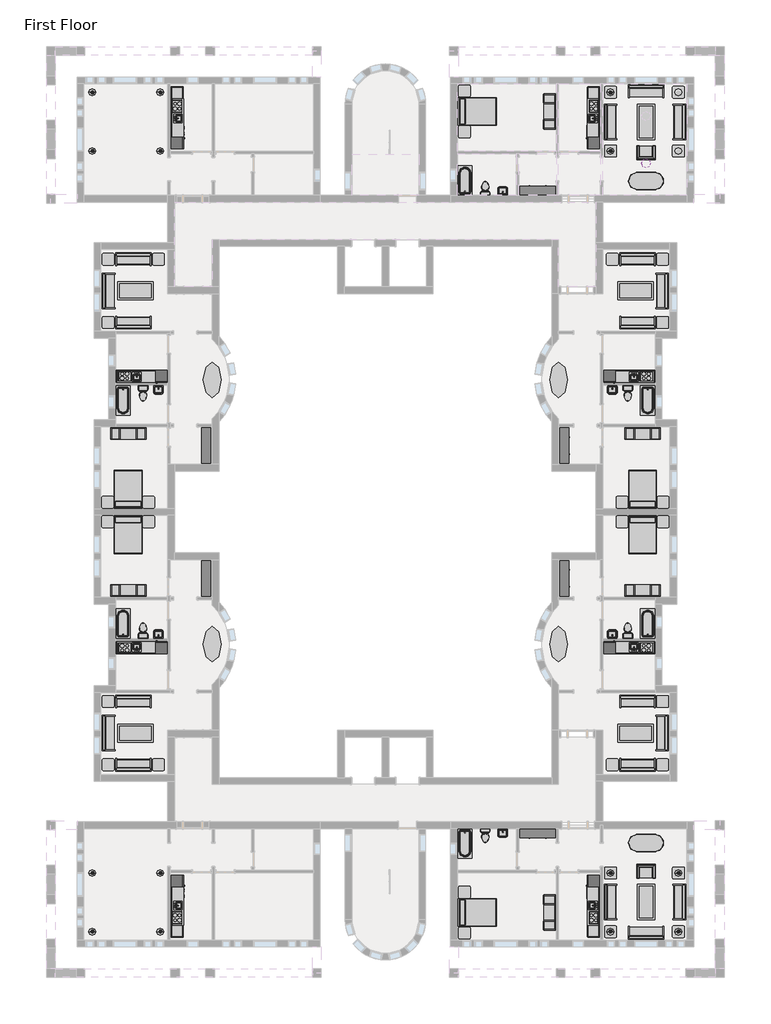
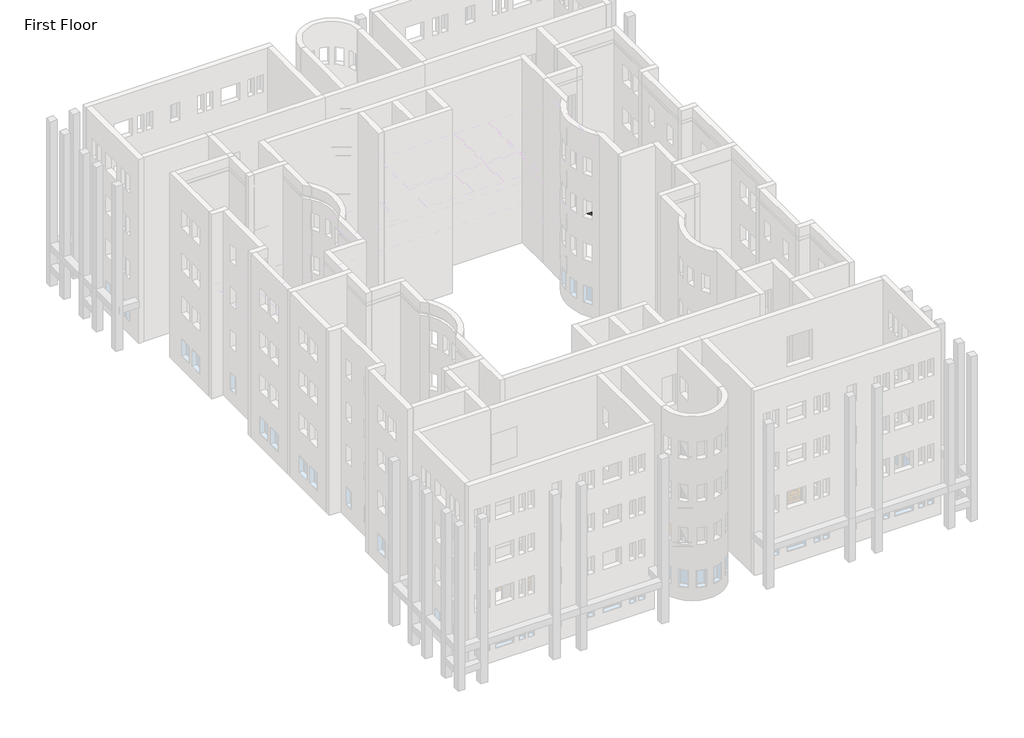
# One storey, part 23 of 24: 82 furniture elements, 18 flow terminals, 15 light fixtures, 8 proxies.
"""IFC4 building model written with IfcOpenShell, lengths in millimetres."""

from ifc_helpers import new_model, si_unit, origin, place, context, project, spatial, transform, mapped, element, save
from components import kitchenette_medium_5_9f73a4de, kitchenette_medium_5_952fb32b, proxy_64a468c4, proxy_b7eaed23, flow_terminal_0aeb31e3, flow_terminal_b53e1081, toilet_domestic_3d_toilet_domestic_3d_f7549cf7, toilet_domestic_3d_toilet_domestic_3d_183bbd19, toilet_domestic_3d_toilet_domestic_3d_a08e12bc, toilet_domestic_3d_toilet_domestic_3d_5530cc89, tub_rectangular_3d_tub_rectangular_3d_5e45a89b, tub_rectangular_3d_tub_rectangular_3d_98eb9c7c, furniture_096e7f55, furniture_097b173b, chair_corbu_chair_corbu_2764bdef, chair_corbu_chair_corbu_95fad79a, furniture_7c473f12, furniture_f6e81328, furniture_ddc78764, furniture_328d9d47, furniture_4ef38d96, furniture_dde8a40a, furniture_cd93a443, furniture_c9413244, furniture_2c34a4f9, furniture_cc351095, furniture_43880056, furniture_a7425590, furniture_3a588284, furniture_1befe2a2, pendant_disk_c68bffb6, table_lamp_1_100_watt_incandescent_6e8cd8b1, table_lamp_1_100_watt_incandescent_b33ea945

model = new_model("IFC4")

# Units and contexts
model_context = context("Model", 3, world=origin())
ifc_project = project(units=[si_unit("LENGTHUNIT", "METRE", prefix="MILLI")], contexts=[model_context])

# Site, building, storey
site = spatial("IfcSite", under=ifc_project)
building = spatial("IfcBuilding", under=site)
storey = spatial("IfcBuildingStorey", under=building, Name="First Floor", Elevation=0.0)

# Proxies
placement = place(None, origin())
kitchenette_medium_5_shape = kitchenette_medium_5_9f73a4de(model_context)
element("IfcBuildingElementProxy", 1, Name="Kitchenette - Medium : 5'", ObjectType="Kitchenette - Medium : 5'", at=placement, inside=storey, context=model_context, shape_type="MappedRepresentation", body=[
    mapped(kitchenette_medium_5_shape, transform((-28112.6966612, -4494.4827414, 0.0), x_axis=(1.0, 0.0, 0.0), y_axis=(0.0, 1.0, 0.0), z_axis=(0.0, 0.0, 1.0))),
])
element("IfcBuildingElementProxy", 2, Name="Kitchenette - Medium : 5'", ObjectType="Kitchenette - Medium : 5'", at=placement, inside=storey, context=model_context, shape_type="MappedRepresentation", body=[
    mapped(kitchenette_medium_5_shape, transform((-1757.6462514, -19113.8538852, 0.0), x_axis=(-1.0, 0.0, 0.0), y_axis=(0.0, -1.0, 0.0), z_axis=(0.0, 0.0, 1.0))),
])
kitchenette_medium_5_2_shape = kitchenette_medium_5_952fb32b(model_context)
element("IfcBuildingElementProxy", 3, Name="Kitchenette - Medium : 5'", ObjectType="Kitchenette - Medium : 5'", at=placement, inside=storey, context=model_context, shape_type="MappedRepresentation", body=[
    mapped(kitchenette_medium_5_2_shape, transform((-1757.6462514, -4494.4827414, 0.0), x_axis=(-1.0, 0.0, 0.0), y_axis=(0.0, -1.0, 0.0), z_axis=(0.0, 0.0, 1.0))),
])
element("IfcBuildingElementProxy", 4, Name="Kitchenette - Medium : 5'", ObjectType="Kitchenette - Medium : 5'", at=placement, inside=storey, context=model_context, shape_type="MappedRepresentation", body=[
    mapped(kitchenette_medium_5_2_shape, transform((-28112.6966612, -19113.8538852, 0.0), x_axis=(1.0, 0.0, 0.0), y_axis=(0.0, 1.0, 0.0), z_axis=(0.0, 0.0, 1.0))),
])
proxy_shape = proxy_64a468c4(model_context)
element("IfcBuildingElementProxy", 5, Name="Kitchenette - Medium : 8'6\"", ObjectType="Kitchenette - Medium : 8'6\"", at=placement, inside=storey, context=model_context, shape_type="MappedRepresentation", body=[
    mapped(proxy_shape, transform((-3887.7589563, 8837.7956433, 0.0), x_axis=(0.0, -1.0, 0.0), y_axis=(1.0, 0.0, 0.0), z_axis=(0.0, 0.0, 1.0))),
])
element("IfcBuildingElementProxy", 6, Name="Kitchenette - Medium : 8'6\"", ObjectType="Kitchenette - Medium : 8'6\"", at=placement, inside=storey, context=model_context, shape_type="MappedRepresentation", body=[
    mapped(proxy_shape, transform((-25982.5839563, -32446.1322699, 0.0), x_axis=(0.0, 1.0, 0.0), y_axis=(-1.0, 0.0, 0.0), z_axis=(0.0, 0.0, 1.0))),
])
proxy_2_shape = proxy_b7eaed23(model_context)
element("IfcBuildingElementProxy", 7, Name="Kitchenette - Medium : 8'6\"", ObjectType="Kitchenette - Medium : 8'6\"", at=placement, inside=storey, context=model_context, shape_type="MappedRepresentation", body=[
    mapped(proxy_2_shape, transform((-25982.5839563, 8837.7956433, 0.0), x_axis=(0.0, -1.0, 0.0), y_axis=(1.0, 0.0, 0.0), z_axis=(0.0, 0.0, 1.0))),
])
element("IfcBuildingElementProxy", 8, Name="Kitchenette - Medium : 8'6\"", ObjectType="Kitchenette - Medium : 8'6\"", at=placement, inside=storey, context=model_context, shape_type="MappedRepresentation", body=[
    mapped(proxy_2_shape, transform((-3887.7589563, -32446.1322699, 0.0), x_axis=(0.0, 1.0, 0.0), y_axis=(-1.0, 0.0, 0.0), z_axis=(0.0, 0.0, 1.0))),
])

# Flow terminals
flow_terminal_shape = flow_terminal_0aeb31e3(model_context)
element("IfcFlowTerminal", 9, ObjectType="Sink Vanity-Square : 24\" x 19\"", at=placement, inside=storey, context=model_context, shape_type="MappedRepresentation", body=[
    mapped(flow_terminal_shape, transform((-8864.7572157, 4706.5895878, 0.0), x_axis=(-1.0, 0.0, 0.0), y_axis=(0.0, -1.0, 0.0), z_axis=(0.0, 0.0, 1.0))),
])
element("IfcFlowTerminal", 10, ObjectType="Sink Vanity-Square : 24\" x 19\"", at=placement, inside=storey, context=model_context, shape_type="MappedRepresentation", body=[
    mapped(flow_terminal_shape, transform((-26661.6702389, -5454.9262144, 0.0), x_axis=(1.0, 0.0, 0.0), y_axis=(0.0, 1.0, 0.0), z_axis=(0.0, 0.0, 1.0))),
])
element("IfcFlowTerminal", 11, ObjectType="Sink Vanity-Square : 24\" x 19\"", at=placement, inside=storey, context=model_context, shape_type="MappedRepresentation", body=[
    mapped(flow_terminal_shape, transform((-3208.6726738, -18153.4104122, 0.0), x_axis=(-1.0, 0.0, 0.0), y_axis=(0.0, -1.0, 0.0), z_axis=(0.0, 0.0, 1.0))),
])
flow_terminal_2_shape = flow_terminal_b53e1081(model_context)
element("IfcFlowTerminal", 12, ObjectType="Sink Vanity-Square : 24\" x 19\"", at=placement, inside=storey, context=model_context, shape_type="MappedRepresentation", body=[
    mapped(flow_terminal_2_shape, transform((-3208.6726738, -5454.9262144, 0.0), x_axis=(-1.0, 0.0, 0.0), y_axis=(0.0, -1.0, 0.0), z_axis=(0.0, 0.0, 1.0))),
])
element("IfcFlowTerminal", 13, ObjectType="Sink Vanity-Square : 24\" x 19\"", at=placement, inside=storey, context=model_context, shape_type="MappedRepresentation", body=[
    mapped(flow_terminal_2_shape, transform((-8864.7572157, -28314.9262144, 0.0), x_axis=(-1.0, 0.0, 0.0), y_axis=(0.0, -1.0, 0.0), z_axis=(0.0, 0.0, 1.0))),
])
element("IfcFlowTerminal", 14, ObjectType="Sink Vanity-Square : 24\" x 19\"", at=placement, inside=storey, context=model_context, shape_type="MappedRepresentation", body=[
    mapped(flow_terminal_2_shape, transform((-26661.6702389, -18153.4104122, 0.0), x_axis=(1.0, 0.0, 0.0), y_axis=(0.0, 1.0, 0.0), z_axis=(0.0, 0.0, 1.0))),
])
toilet_domestic_3d_toilet_domestic_3d_shape = toilet_domestic_3d_toilet_domestic_3d_f7549cf7(model_context)
toilet_domestic_3d_toilet_domestic_3d_2_shape = toilet_domestic_3d_toilet_domestic_3d_183bbd19(model_context)
element("IfcFlowTerminal", 15, ObjectType="Toilet-Domestic-3D : Toilet-Domestic-3D", at=placement, inside=storey, context=model_context, shape_type="MappedRepresentation", body=[
    mapped(toilet_domestic_3d_toilet_domestic_3d_shape, transform((-9782.1466587, 4940.866411, 0.0), x_axis=(-1.0000000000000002, 0.0, 0.0), y_axis=(0.0, -1.0000000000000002, 0.0), z_axis=(0.0, 0.0, 1.0))),
    mapped(toilet_domestic_3d_toilet_domestic_3d_2_shape, transform((-9782.1466587, 4940.866411, 0.0), x_axis=(-1.0000000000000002, 0.0, 0.0), y_axis=(0.0, -1.0000000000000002, 0.0), z_axis=(0.0, 0.0, 1.0))),
])
element("IfcFlowTerminal", 16, ObjectType="Toilet-Domestic-3D : Toilet-Domestic-3D", at=placement, inside=storey, context=model_context, shape_type="MappedRepresentation", body=[
    mapped(toilet_domestic_3d_toilet_domestic_3d_shape, transform((-27441.2684762, -5780.4420267, 0.0), x_axis=(1.0, 0.0, 0.0), y_axis=(0.0, 1.0, 0.0), z_axis=(0.0, 0.0, 1.0))),
    mapped(toilet_domestic_3d_toilet_domestic_3d_2_shape, transform((-27441.2684762, -5780.4420267, 0.0), x_axis=(1.0, 0.0, 0.0), y_axis=(0.0, 1.0, 0.0), z_axis=(0.0, 0.0, 1.0))),
])
element("IfcFlowTerminal", 17, ObjectType="Toilet-Domestic-3D : Toilet-Domestic-3D", at=placement, inside=storey, context=model_context, shape_type="MappedRepresentation", body=[
    mapped(toilet_domestic_3d_toilet_domestic_3d_shape, transform((-2429.0744364, -17827.8945999, 0.0), x_axis=(-1.0, 0.0, 0.0), y_axis=(0.0, -1.0, 0.0), z_axis=(0.0, 0.0, 1.0))),
    mapped(toilet_domestic_3d_toilet_domestic_3d_2_shape, transform((-2429.0744364, -17827.8945999, 0.0), x_axis=(-1.0, 0.0, 0.0), y_axis=(0.0, -1.0, 0.0), z_axis=(0.0, 0.0, 1.0))),
])
toilet_domestic_3d_toilet_domestic_3d_3_shape = toilet_domestic_3d_toilet_domestic_3d_a08e12bc(model_context)
toilet_domestic_3d_toilet_domestic_3d_4_shape = toilet_domestic_3d_toilet_domestic_3d_5530cc89(model_context)
element("IfcFlowTerminal", 18, ObjectType="Toilet-Domestic-3D : Toilet-Domestic-3D", at=placement, inside=storey, context=model_context, shape_type="MappedRepresentation", body=[
    mapped(toilet_domestic_3d_toilet_domestic_3d_3_shape, transform((-2429.0744364, -5780.4420267, 0.0), x_axis=(-1.0, 0.0, 0.0), y_axis=(0.0, -1.0, 0.0), z_axis=(0.0, 0.0, 1.0))),
    mapped(toilet_domestic_3d_toilet_domestic_3d_4_shape, transform((-2429.0744364, -5780.4420267, 0.0), x_axis=(-1.0, 0.0, 0.0), y_axis=(0.0, -1.0, 0.0), z_axis=(0.0, 0.0, 1.0))),
])
element("IfcFlowTerminal", 19, ObjectType="Toilet-Domestic-3D : Toilet-Domestic-3D", at=placement, inside=storey, context=model_context, shape_type="MappedRepresentation", body=[
    mapped(toilet_domestic_3d_toilet_domestic_3d_3_shape, transform((-9782.1466587, -28549.2030376, 0.0), x_axis=(-1.0000000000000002, 0.0, 0.0), y_axis=(0.0, -1.0000000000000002, 0.0), z_axis=(0.0, 0.0, 1.0))),
    mapped(toilet_domestic_3d_toilet_domestic_3d_4_shape, transform((-9782.1466587, -28549.2030376, 0.0), x_axis=(-1.0000000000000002, 0.0, 0.0), y_axis=(0.0, -1.0000000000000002, 0.0), z_axis=(0.0, 0.0, 1.0))),
])
element("IfcFlowTerminal", 20, ObjectType="Toilet-Domestic-3D : Toilet-Domestic-3D", at=placement, inside=storey, context=model_context, shape_type="MappedRepresentation", body=[
    mapped(toilet_domestic_3d_toilet_domestic_3d_3_shape, transform((-27441.2684762, -17827.8945999, 0.0), x_axis=(1.0, 0.0, 0.0), y_axis=(0.0, 1.0, 0.0), z_axis=(0.0, 0.0, 1.0))),
    mapped(toilet_domestic_3d_toilet_domestic_3d_4_shape, transform((-27441.2684762, -17827.8945999, 0.0), x_axis=(1.0, 0.0, 0.0), y_axis=(0.0, 1.0, 0.0), z_axis=(0.0, 0.0, 1.0))),
])
tub_rectangular_3d_tub_rectangular_3d_shape = tub_rectangular_3d_tub_rectangular_3d_5e45a89b(model_context)
element("IfcFlowTerminal", 21, ObjectType="Tub-Rectangular-3D : Tub-Rectangular-3D", at=placement, inside=storey, context=model_context, shape_type="MappedRepresentation", body=[
    mapped(tub_rectangular_3d_tub_rectangular_3d_shape, transform((-11393.4589563, 5637.0471554, 0.0), x_axis=(0.0, 1.0, 0.0), y_axis=(-1.0, 0.0, 0.0), z_axis=(0.0, 0.0, 1.0))),
])
element("IfcFlowTerminal", 22, ObjectType="Tub-Rectangular-3D : Tub-Rectangular-3D", at=placement, inside=storey, context=model_context, shape_type="MappedRepresentation", body=[
    mapped(tub_rectangular_3d_tub_rectangular_3d_shape, transform((-838.1714563, -6398.083782, 0.0), x_axis=(0.0, -1.0, 0.0), y_axis=(1.0, 0.0, 0.0), z_axis=(0.0, 0.0, 1.0))),
])
element("IfcFlowTerminal", 23, ObjectType="Tub-Rectangular-3D : Tub-Rectangular-3D", at=placement, inside=storey, context=model_context, shape_type="MappedRepresentation", body=[
    mapped(tub_rectangular_3d_tub_rectangular_3d_shape, transform((-29032.1714563, -17210.2528446, 0.0), x_axis=(0.0, 1.0, 0.0), y_axis=(-1.0, 0.0, 0.0), z_axis=(0.0, 0.0, 1.0))),
])
tub_rectangular_3d_tub_rectangular_3d_2_shape = tub_rectangular_3d_tub_rectangular_3d_98eb9c7c(model_context)
element("IfcFlowTerminal", 24, ObjectType="Tub-Rectangular-3D : Tub-Rectangular-3D", at=placement, inside=storey, context=model_context, shape_type="MappedRepresentation", body=[
    mapped(tub_rectangular_3d_tub_rectangular_3d_2_shape, transform((-29032.1714563, -6398.083782, 0.0), x_axis=(0.0, -1.0, 0.0), y_axis=(1.0, 0.0, 0.0), z_axis=(0.0, 0.0, 1.0))),
])
element("IfcFlowTerminal", 25, ObjectType="Tub-Rectangular-3D : Tub-Rectangular-3D", at=placement, inside=storey, context=model_context, shape_type="MappedRepresentation", body=[
    mapped(tub_rectangular_3d_tub_rectangular_3d_2_shape, transform((-11393.4589563, -29245.383782, 0.0), x_axis=(0.0, -1.0, 0.0), y_axis=(1.0, 0.0, 0.0), z_axis=(0.0, 0.0, 1.0))),
])
element("IfcFlowTerminal", 26, ObjectType="Tub-Rectangular-3D : Tub-Rectangular-3D", at=placement, inside=storey, context=model_context, shape_type="MappedRepresentation", body=[
    mapped(tub_rectangular_3d_tub_rectangular_3d_2_shape, transform((-838.1714563, -17210.2528446, 0.0), x_axis=(0.0, 1.0, 0.0), y_axis=(-1.0, 0.0, 0.0), z_axis=(0.0, 0.0, 1.0))),
])

# Furniture
furniture_shape = furniture_096e7f55(model_context)
element("IfcFurniture", 27, ObjectType="Bed-Shaker : Double 56\" x 78\"", at=placement, inside=storey, context=model_context, shape_type="MappedRepresentation", body=[
    mapped(furniture_shape, transform((-11183.1982802, 8871.8755561, 0.0), x_axis=(0.0, 1.0, 0.0), y_axis=(-1.0, 0.0, 0.0), z_axis=(0.0, 0.0, 1.0))),
])
element("IfcFurniture", 28, ObjectType="Bed-Shaker : Double 56\" x 78\"", at=placement, inside=storey, context=model_context, shape_type="MappedRepresentation", body=[
    mapped(furniture_shape, transform((-28225.7607767, -11625.2530883, 0.0), x_axis=(-1.0, 0.0, 0.0), y_axis=(0.0, -1.0, 0.0), z_axis=(0.0, 0.0, 1.0))),
])
element("IfcFurniture", 29, ObjectType="Bed-Shaker : Double 56\" x 78\"", at=placement, inside=storey, context=model_context, shape_type="MappedRepresentation", body=[
    mapped(furniture_shape, transform((-1644.5821359, -11983.0835384, 0.0), x_axis=(1.0, 0.0, 0.0), y_axis=(0.0, 1.0, 0.0), z_axis=(0.0, 0.0, 1.0))),
])
furniture_2_shape = furniture_097b173b(model_context)
element("IfcFurniture", 30, ObjectType="Bed-Shaker : Double 56\" x 78\"", at=placement, inside=storey, context=model_context, shape_type="MappedRepresentation", body=[
    mapped(furniture_2_shape, transform((-1644.5821359, -11625.2530883, 0.0), x_axis=(1.0, 0.0, 0.0), y_axis=(0.0, 1.0, 0.0), z_axis=(0.0, 0.0, 1.0))),
])
element("IfcFurniture", 31, ObjectType="Bed-Shaker : Double 56\" x 78\"", at=placement, inside=storey, context=model_context, shape_type="MappedRepresentation", body=[
    mapped(furniture_2_shape, transform((-11183.1982802, -32480.2121827, 0.0), x_axis=(0.0, -1.0, 0.0), y_axis=(1.0, 0.0, 0.0), z_axis=(0.0, 0.0, 1.0))),
])
element("IfcFurniture", 32, ObjectType="Bed-Shaker : Double 56\" x 78\"", at=placement, inside=storey, context=model_context, shape_type="MappedRepresentation", body=[
    mapped(furniture_2_shape, transform((-28225.7607767, -11983.0835384, 0.0), x_axis=(-1.0, 0.0, 0.0), y_axis=(0.0, -1.0, 0.0), z_axis=(0.0, 0.0, 1.0))),
])
chair_corbu_chair_corbu_shape = chair_corbu_chair_corbu_2764bdef(model_context)
element("IfcFurniture", 33, ObjectType="Chair-Corbu : Chair-Corbu", at=placement, inside=storey, context=model_context, shape_type="MappedRepresentation", body=[
    mapped(chair_corbu_chair_corbu_shape, transform((-914.0851858, 7193.4962359, 0.0), x_axis=(-1.0, 0.0, 0.0), y_axis=(0.0, -1.0, 0.0), z_axis=(0.0, 0.0, 1.0))),
])
chair_corbu_chair_corbu_2_shape = chair_corbu_chair_corbu_95fad79a(model_context)
element("IfcFurniture", 34, ObjectType="Chair-Corbu : Chair-Corbu", at=placement, inside=storey, context=model_context, shape_type="MappedRepresentation", body=[
    mapped(chair_corbu_chair_corbu_2_shape, transform((-914.0851858, -30801.8328625, 0.0), x_axis=(-1.0, 0.0, 0.0), y_axis=(0.0, -1.0, 0.0), z_axis=(0.0, 0.0, 1.0))),
])
furniture_3_shape = furniture_7c473f12(model_context)
element("IfcFurniture", 35, ObjectType="Dresser : 72\" x 60\" x 18\"", at=placement, inside=storey, context=model_context, shape_type="MappedRepresentation", body=[
    mapped(furniture_3_shape, transform((-7344.6522161, 4404.5812326, 0.0), x_axis=(-1.0, 0.0, 0.0), y_axis=(0.0, -1.0, 0.0), z_axis=(0.0, 0.0, 1.0))),
])
element("IfcFurniture", 36, ObjectType="Dresser : 72\" x 60\" x 18\"", at=placement, inside=storey, context=model_context, shape_type="MappedRepresentation", body=[
    mapped(furniture_3_shape, transform((-23816.0210022, -8652.0008576, 0.0), x_axis=(0.0, -1.0, 0.0), y_axis=(1.0, 0.0, 0.0), z_axis=(0.0, 0.0, 1.0))),
])
element("IfcFurniture", 37, ObjectType="Dresser : 72\" x 60\" x 18\"", at=placement, inside=storey, context=model_context, shape_type="MappedRepresentation", body=[
    mapped(furniture_3_shape, transform((-6054.3219104, -14956.335769, 0.0), x_axis=(0.0, 1.0, 0.0), y_axis=(-1.0, 0.0, 0.0), z_axis=(0.0, 0.0, 1.0))),
])
furniture_4_shape = furniture_f6e81328(model_context)
element("IfcFurniture", 38, ObjectType="Dresser : 72\" x 60\" x 18\"", at=placement, inside=storey, context=model_context, shape_type="MappedRepresentation", body=[
    mapped(furniture_4_shape, transform((-6054.3219104, -8652.0008576, 0.0), x_axis=(0.0, -1.0, 0.0), y_axis=(1.0, 0.0, 0.0), z_axis=(0.0, 0.0, 1.0))),
])
element("IfcFurniture", 39, ObjectType="Dresser : 72\" x 60\" x 18\"", at=placement, inside=storey, context=model_context, shape_type="MappedRepresentation", body=[
    mapped(furniture_4_shape, transform((-7344.6522161, -28012.9178592, 0.0), x_axis=(-1.0, 0.0, 0.0), y_axis=(0.0, -1.0, 0.0), z_axis=(0.0, 0.0, 1.0))),
])
element("IfcFurniture", 40, ObjectType="Dresser : 72\" x 60\" x 18\"", at=placement, inside=storey, context=model_context, shape_type="MappedRepresentation", body=[
    mapped(furniture_4_shape, transform((-23816.0210022, -14956.335769, 0.0), x_axis=(0.0, 1.0, 0.0), y_axis=(-1.0, 0.0, 0.0), z_axis=(0.0, 0.0, 1.0))),
])
furniture_5_shape = furniture_ddc78764(model_context)
element("IfcFurniture", 41, ObjectType="Entertainment Center : 72\" x 72\" x 24\"", at=placement, inside=storey, context=model_context, shape_type="MappedRepresentation", body=[
    mapped(furniture_5_shape, transform((-6059.4589563, 8852.8255561, 0.0), x_axis=(0.0, -1.0, 0.0), y_axis=(1.0, 0.0, 0.0), z_axis=(0.0, 0.0, 1.0))),
])
element("IfcFurniture", 42, ObjectType="Entertainment Center : 72\" x 72\" x 24\"", at=placement, inside=storey, context=model_context, shape_type="MappedRepresentation", body=[
    mapped(furniture_5_shape, transform((-28206.7107767, -7346.0255393, 0.0), x_axis=(1.0, 0.0, 0.0), y_axis=(0.0, 1.0, 0.0), z_axis=(0.0, 0.0, 1.0))),
])
element("IfcFurniture", 43, ObjectType="Entertainment Center : 72\" x 72\" x 24\"", at=placement, inside=storey, context=model_context, shape_type="MappedRepresentation", body=[
    mapped(furniture_5_shape, transform((-1663.6321359, -16262.3110874, 0.0), x_axis=(-1.0, 0.0, 0.0), y_axis=(0.0, -1.0, 0.0), z_axis=(0.0, 0.0, 1.0))),
])
furniture_6_shape = furniture_328d9d47(model_context)
element("IfcFurniture", 44, ObjectType="Entertainment Center : 72\" x 72\" x 24\"", at=placement, inside=storey, context=model_context, shape_type="MappedRepresentation", body=[
    mapped(furniture_6_shape, transform((-1663.6321359, -7346.0255393, 0.0), x_axis=(-1.0, 0.0, 0.0), y_axis=(0.0, -1.0, 0.0), z_axis=(0.0, 0.0, 1.0))),
])
element("IfcFurniture", 45, ObjectType="Entertainment Center : 72\" x 72\" x 24\"", at=placement, inside=storey, context=model_context, shape_type="MappedRepresentation", body=[
    mapped(furniture_6_shape, transform((-6059.4589563, -32461.1621827, 0.0), x_axis=(0.0, 1.0, 0.0), y_axis=(-1.0, 0.0, 0.0), z_axis=(0.0, 0.0, 1.0))),
])
element("IfcFurniture", 46, ObjectType="Entertainment Center : 72\" x 72\" x 24\"", at=placement, inside=storey, context=model_context, shape_type="MappedRepresentation", body=[
    mapped(furniture_6_shape, transform((-28206.7107767, -16262.3110874, 0.0), x_axis=(1.0, 0.0, 0.0), y_axis=(0.0, 1.0, 0.0), z_axis=(0.0, 0.0, 1.0))),
])
furniture_7_shape = furniture_4ef38d96(model_context)
element("IfcFurniture", 47, ObjectType="Sofa : 72\"", at=placement, inside=storey, context=model_context, shape_type="MappedRepresentation", body=[
    mapped(furniture_7_shape, transform((-1557.8294481, 9741.2775883, 0.0), x_axis=(1.0, 0.0, 0.0), y_axis=(0.0, 1.0, 0.0), z_axis=(0.0, 0.0, 1.0))),
])
element("IfcFurniture", 48, ObjectType="Sofa : 72\"", at=placement, inside=storey, context=model_context, shape_type="MappedRepresentation", body=[
    mapped(furniture_7_shape, transform((93.5869453, 8383.0021785, 0.0), x_axis=(0.0, -1.0, 0.0), y_axis=(1.0, 0.0, 0.0), z_axis=(0.0, 0.0, 1.0))),
])
element("IfcFurniture", 49, ObjectType="Sofa : 72\"", at=placement, inside=storey, context=model_context, shape_type="MappedRepresentation", body=[
    mapped(furniture_7_shape, transform((-3170.104858, 8242.2611949, 0.0), x_axis=(0.0, 1.0, 0.0), y_axis=(-1.0, 0.0, 0.0), z_axis=(0.0, 0.0, 1.0))),
])
element("IfcFurniture", 50, ObjectType="Sofa : 72\"", at=placement, inside=storey, context=model_context, shape_type="MappedRepresentation", body=[
    mapped(furniture_7_shape, transform((-1998.8802189, 1090.1095299, 0.0), x_axis=(1.0, 0.0, 0.0), y_axis=(0.0, 1.0, 0.0), z_axis=(0.0, 0.0, 1.0))),
])
element("IfcFurniture", 51, ObjectType="Sofa : 72\"", at=placement, inside=storey, context=model_context, shape_type="MappedRepresentation", body=[
    mapped(furniture_7_shape, transform((-29062.229858, -468.3513051, 0.0), x_axis=(0.0, 1.0, 0.0), y_axis=(-1.0, 0.0, 0.0), z_axis=(0.0, 0.0, 1.0))),
])
element("IfcFurniture", 52, ObjectType="Sofa : 72\"", at=placement, inside=storey, context=model_context, shape_type="MappedRepresentation", body=[
    mapped(furniture_7_shape, transform((-27871.4626937, -1886.0711565, 0.0), x_axis=(-1.0, 0.0, 0.0), y_axis=(0.0, -1.0, 0.0), z_axis=(0.0, 0.0, 1.0))),
])
element("IfcFurniture", 53, ObjectType="Sofa : 72\"", at=placement, inside=storey, context=model_context, shape_type="MappedRepresentation", body=[
    mapped(furniture_7_shape, transform((-808.1130547, -23139.9853215, 0.0), x_axis=(0.0, -1.0, 0.0), y_axis=(1.0, 0.0, 0.0), z_axis=(0.0, 0.0, 1.0))),
])
element("IfcFurniture", 54, ObjectType="Sofa : 72\"", at=placement, inside=storey, context=model_context, shape_type="MappedRepresentation", body=[
    mapped(furniture_7_shape, transform((-1998.8802189, -21722.2654701, 0.0), x_axis=(1.0, 0.0, 0.0), y_axis=(0.0, 1.0, 0.0), z_axis=(0.0, 0.0, 1.0))),
])
element("IfcFurniture", 55, ObjectType="Sofa : 72\"", at=placement, inside=storey, context=model_context, shape_type="MappedRepresentation", body=[
    mapped(furniture_7_shape, transform((-27871.4626937, -24698.4461565, 0.0), x_axis=(-1.0, 0.0, 0.0), y_axis=(0.0, -1.0, 0.0), z_axis=(0.0, 0.0, 1.0))),
])
furniture_8_shape = furniture_dde8a40a(model_context)
element("IfcFurniture", 56, ObjectType="Sofa : 72\"", at=placement, inside=storey, context=model_context, shape_type="MappedRepresentation", body=[
    mapped(furniture_8_shape, transform((-808.1130547, -468.3513051, 0.0), x_axis=(0.0, 1.0, 0.0), y_axis=(-1.0, 0.0, 0.0), z_axis=(0.0, 0.0, 1.0))),
])
element("IfcFurniture", 57, ObjectType="Sofa : 72\"", at=placement, inside=storey, context=model_context, shape_type="MappedRepresentation", body=[
    mapped(furniture_8_shape, transform((-1998.8802189, -1886.0711565, 0.0), x_axis=(1.0, 0.0, 0.0), y_axis=(0.0, 1.0, 0.0), z_axis=(0.0, 0.0, 1.0))),
])
element("IfcFurniture", 58, ObjectType="Sofa : 72\"", at=placement, inside=storey, context=model_context, shape_type="MappedRepresentation", body=[
    mapped(furniture_8_shape, transform((-27871.4626937, 1090.1095299, 0.0), x_axis=(-1.0, 0.0, 0.0), y_axis=(0.0, -1.0, 0.0), z_axis=(0.0, 0.0, 1.0))),
])
element("IfcFurniture", 59, ObjectType="Sofa : 72\"", at=placement, inside=storey, context=model_context, shape_type="MappedRepresentation", body=[
    mapped(furniture_8_shape, transform((-1557.8294481, -33349.614215, 0.0), x_axis=(1.0, 0.0, 0.0), y_axis=(0.0, 1.0, 0.0), z_axis=(0.0, 0.0, 1.0))),
])
element("IfcFurniture", 60, ObjectType="Sofa : 72\"", at=placement, inside=storey, context=model_context, shape_type="MappedRepresentation", body=[
    mapped(furniture_8_shape, transform((93.5869453, -31991.3388051, 0.0), x_axis=(0.0, 1.0, 0.0), y_axis=(-1.0, 0.0, 0.0), z_axis=(0.0, 0.0, 1.0))),
])
element("IfcFurniture", 61, ObjectType="Sofa : 72\"", at=placement, inside=storey, context=model_context, shape_type="MappedRepresentation", body=[
    mapped(furniture_8_shape, transform((-3170.104858, -31850.5978215, 0.0), x_axis=(0.0, -1.0, 0.0), y_axis=(1.0, 0.0, 0.0), z_axis=(0.0, 0.0, 1.0))),
])
element("IfcFurniture", 62, ObjectType="Sofa : 72\"", at=placement, inside=storey, context=model_context, shape_type="MappedRepresentation", body=[
    mapped(furniture_8_shape, transform((-1998.8802189, -24698.4461565, 0.0), x_axis=(1.0, 0.0, 0.0), y_axis=(0.0, 1.0, 0.0), z_axis=(0.0, 0.0, 1.0))),
])
element("IfcFurniture", 63, ObjectType="Sofa : 72\"", at=placement, inside=storey, context=model_context, shape_type="MappedRepresentation", body=[
    mapped(furniture_8_shape, transform((-29062.229858, -23139.9853215, 0.0), x_axis=(0.0, -1.0, 0.0), y_axis=(1.0, 0.0, 0.0), z_axis=(0.0, 0.0, 1.0))),
])
element("IfcFurniture", 64, ObjectType="Sofa : 72\"", at=placement, inside=storey, context=model_context, shape_type="MappedRepresentation", body=[
    mapped(furniture_8_shape, transform((-27871.4626937, -21722.2654701, 0.0), x_axis=(-1.0, 0.0, 0.0), y_axis=(0.0, -1.0, 0.0), z_axis=(0.0, 0.0, 1.0))),
])
furniture_9_shape = furniture_cd93a443(model_context)
element("IfcFurniture", 65, ObjectType="Table-Coffee : 36\" x 72\" x 18\"", at=placement, inside=storey, context=model_context, shape_type="MappedRepresentation", body=[
    mapped(furniture_9_shape, transform((-1582.6700341, 8330.8974534, 0.0), x_axis=(0.0, -1.0, 0.0), y_axis=(1.0, 0.0, 0.0), z_axis=(0.0, 0.0, 1.0))),
])
element("IfcFurniture", 66, ObjectType="Table-Coffee : 36\" x 72\" x 18\"", at=placement, inside=storey, context=model_context, shape_type="MappedRepresentation", body=[
    mapped(furniture_9_shape, transform((-27855.049723, -493.1918911, 0.0), x_axis=(1.0, 0.0, 0.0), y_axis=(0.0, 1.0, 0.0), z_axis=(0.0, 0.0, 1.0))),
])
element("IfcFurniture", 67, ObjectType="Table-Coffee : 36\" x 72\" x 18\"", at=placement, inside=storey, context=model_context, shape_type="MappedRepresentation", body=[
    mapped(furniture_9_shape, transform((-2015.2931896, -23115.1447355, 0.0), x_axis=(-1.0, 0.0, 0.0), y_axis=(0.0, -1.0, 0.0), z_axis=(0.0, 0.0, 1.0))),
])
furniture_10_shape = furniture_c9413244(model_context)
element("IfcFurniture", 68, ObjectType="Table-Coffee : 36\" x 72\" x 18\"", at=placement, inside=storey, context=model_context, shape_type="MappedRepresentation", body=[
    mapped(furniture_10_shape, transform((-2015.2931896, -493.1918911, 0.0), x_axis=(-1.0, 0.0, 0.0), y_axis=(0.0, -1.0, 0.0), z_axis=(0.0, 0.0, 1.0))),
])
element("IfcFurniture", 69, ObjectType="Table-Coffee : 36\" x 72\" x 18\"", at=placement, inside=storey, context=model_context, shape_type="MappedRepresentation", body=[
    mapped(furniture_10_shape, transform((-1582.6700341, -31939.23408, 0.0), x_axis=(0.0, 1.0, 0.0), y_axis=(-1.0, 0.0, 0.0), z_axis=(0.0, 0.0, 1.0))),
])
element("IfcFurniture", 70, ObjectType="Table-Coffee : 36\" x 72\" x 18\"", at=placement, inside=storey, context=model_context, shape_type="MappedRepresentation", body=[
    mapped(furniture_10_shape, transform((-27855.049723, -23115.1447355, 0.0), x_axis=(1.0, 0.0, 0.0), y_axis=(0.0, 1.0, 0.0), z_axis=(0.0, 0.0, 1.0))),
])
furniture_11_shape = furniture_2c34a4f9(model_context)
element("IfcFurniture", 71, ObjectType="Table-Dining Oval : 36\" x 72\"", at=placement, inside=storey, context=model_context, shape_type="MappedRepresentation", body=[
    mapped(furniture_11_shape, transform((-1085.6392842, 5622.7300473, 0.0), x_axis=(1.0, 0.0, 0.0), y_axis=(0.0, 1.0, 0.0), z_axis=(0.0, 0.0, 1.0))),
])
furniture_12_shape = furniture_cc351095(model_context)
element("IfcFurniture", 72, ObjectType="Table-Dining Oval : 36\" x 72\"", at=placement, inside=storey, context=model_context, shape_type="MappedRepresentation", body=[
    mapped(furniture_12_shape, transform((-1085.6392842, -29231.066674, 0.0), x_axis=(1.0, 0.0, 0.0), y_axis=(0.0, 1.0, 0.0), z_axis=(0.0, 0.0, 1.0))),
])
furniture_13_shape = furniture_43880056(model_context)
element("IfcFurniture", 73, ObjectType="Table-Ellipse : 72\" x 36\"", at=placement, inside=storey, context=model_context, shape_type="MappedRepresentation", body=[
    mapped(furniture_13_shape, transform((-23874.3839563, -4985.8558133, 0.0), x_axis=(0.0, 1.0, 0.0), y_axis=(-1.0, 0.0, 0.0), z_axis=(0.0, 0.0, 1.0))),
])
element("IfcFurniture", 74, ObjectType="Table-Ellipse : 72\" x 36\"", at=placement, inside=storey, context=model_context, shape_type="MappedRepresentation", body=[
    mapped(furniture_13_shape, transform((-5995.9589563, -18622.4808133, 0.0), x_axis=(0.0, -1.0, 0.0), y_axis=(1.0, 0.0, 0.0), z_axis=(0.0, 0.0, 1.0))),
])
furniture_14_shape = furniture_a7425590(model_context)
element("IfcFurniture", 75, ObjectType="Table-Ellipse : 72\" x 36\"", at=placement, inside=storey, context=model_context, shape_type="MappedRepresentation", body=[
    mapped(furniture_14_shape, transform((-5995.9589563, -4985.8558133, 0.0), x_axis=(0.0, 1.0, 0.0), y_axis=(-1.0, 0.0, 0.0), z_axis=(0.0, 0.0, 1.0))),
])
element("IfcFurniture", 76, ObjectType="Table-Ellipse : 72\" x 36\"", at=placement, inside=storey, context=model_context, shape_type="MappedRepresentation", body=[
    mapped(furniture_14_shape, transform((-23874.3839563, -18622.4808133, 0.0), x_axis=(0.0, -1.0, 0.0), y_axis=(1.0, 0.0, 0.0), z_axis=(0.0, 0.0, 1.0))),
])
furniture_15_shape = furniture_3a588284(model_context)
element("IfcFurniture", 77, ObjectType="Table-End : 24\" x 24\"", at=placement, inside=storey, context=model_context, shape_type="MappedRepresentation", body=[
    mapped(furniture_15_shape, transform((-119.5925866, 9684.2316867, 0.0), x_axis=(1.0, 0.0, 0.0), y_axis=(0.0, 1.0, 0.0), z_axis=(0.0, 0.0, 1.0))),
])
element("IfcFurniture", 78, ObjectType="Table-End : 24\" x 24\"", at=placement, inside=storey, context=model_context, shape_type="MappedRepresentation", body=[
    mapped(furniture_15_shape, transform((-3624.7925866, 9684.2316867, 0.0), x_axis=(1.0, 0.0, 0.0), y_axis=(0.0, 1.0, 0.0), z_axis=(0.0, 0.0, 1.0))),
])
element("IfcFurniture", 79, ObjectType="Table-End : 24\" x 24\"", at=placement, inside=storey, context=model_context, shape_type="MappedRepresentation", body=[
    mapped(furniture_15_shape, transform((-3624.7925866, 6660.0441867, 0.0), x_axis=(1.0, 0.0, 0.0), y_axis=(0.0, 1.0, 0.0), z_axis=(0.0, 0.0, 1.0))),
])
element("IfcFurniture", 80, ObjectType="Table-End : 24\" x 24\"", at=placement, inside=storey, context=model_context, shape_type="MappedRepresentation", body=[
    mapped(furniture_15_shape, transform((-119.5925866, 6660.0441867, 0.0), x_axis=(1.0, 0.0, 0.0), y_axis=(0.0, 1.0, 0.0), z_axis=(0.0, 0.0, 1.0))),
])
element("IfcFurniture", 81, ObjectType="Table-End : 24\" x 24\"", at=placement, inside=storey, context=model_context, shape_type="MappedRepresentation", body=[
    mapped(furniture_15_shape, transform((-11164.2346356, 9756.0737357, 0.0), x_axis=(1.0, 0.0, 0.0), y_axis=(0.0, 1.0, 0.0), z_axis=(0.0, 0.0, 1.0))),
])
element("IfcFurniture", 82, ObjectType="Table-End : 24\" x 24\"", at=placement, inside=storey, context=model_context, shape_type="MappedRepresentation", body=[
    mapped(furniture_15_shape, transform((-2566.8803155, -11606.2894436, 0.0), x_axis=(0.0, 1.0, 0.0), y_axis=(-1.0, 0.0, 0.0), z_axis=(0.0, 0.0, 1.0))),
])
element("IfcFurniture", 83, ObjectType="Table-End : 24\" x 24\"", at=placement, inside=storey, context=model_context, shape_type="MappedRepresentation", body=[
    mapped(furniture_15_shape, transform((-785.5097271, 1544.7972585, 0.0), x_axis=(0.0, -1.0, 0.0), y_axis=(1.0, 0.0, 0.0), z_axis=(0.0, 0.0, 1.0))),
])
element("IfcFurniture", 84, ObjectType="Table-End : 24\" x 24\"", at=placement, inside=storey, context=model_context, shape_type="MappedRepresentation", body=[
    mapped(furniture_15_shape, transform((-29084.8331855, -2340.7588852, 0.0), x_axis=(0.0, 1.0, 0.0), y_axis=(-1.0, 0.0, 0.0), z_axis=(0.0, 0.0, 1.0))),
])
element("IfcFurniture", 85, ObjectType="Table-End : 24\" x 24\"", at=placement, inside=storey, context=model_context, shape_type="MappedRepresentation", body=[
    mapped(furniture_15_shape, transform((-29109.9589563, -11606.2894436, 0.0), x_axis=(0.0, 1.0, 0.0), y_axis=(-1.0, 0.0, 0.0), z_axis=(0.0, 0.0, 1.0))),
])
element("IfcFurniture", 86, ObjectType="Table-End : 24\" x 24\"", at=placement, inside=storey, context=model_context, shape_type="MappedRepresentation", body=[
    mapped(furniture_15_shape, transform((-26798.8331855, 1544.7972585, 0.0), x_axis=(0.0, -1.0, 0.0), y_axis=(1.0, 0.0, 0.0), z_axis=(0.0, 0.0, 1.0))),
])
element("IfcFurniture", 87, ObjectType="Table-End : 24\" x 24\"", at=placement, inside=storey, context=model_context, shape_type="MappedRepresentation", body=[
    mapped(furniture_15_shape, transform((-11164.2346356, -31557.9140031, 0.0), x_axis=(1.0, 0.0, 0.0), y_axis=(0.0, 1.0, 0.0), z_axis=(0.0, 0.0, 1.0))),
])
element("IfcFurniture", 88, ObjectType="Table-End : 24\" x 24\"", at=placement, inside=storey, context=model_context, shape_type="MappedRepresentation", body=[
    mapped(furniture_15_shape, transform((-785.5097271, -21267.5777415, 0.0), x_axis=(0.0, -1.0, 0.0), y_axis=(1.0, 0.0, 0.0), z_axis=(0.0, 0.0, 1.0))),
])
element("IfcFurniture", 89, ObjectType="Table-End : 24\" x 24\"", at=placement, inside=storey, context=model_context, shape_type="MappedRepresentation", body=[
    mapped(furniture_15_shape, transform((-760.3839563, -12002.047183, 0.0), x_axis=(0.0, -1.0, 0.0), y_axis=(1.0, 0.0, 0.0), z_axis=(0.0, 0.0, 1.0))),
])
element("IfcFurniture", 90, ObjectType="Table-End : 24\" x 24\"", at=placement, inside=storey, context=model_context, shape_type="MappedRepresentation", body=[
    mapped(furniture_15_shape, transform((-3071.5097271, -25153.1338852, 0.0), x_axis=(0.0, 1.0, 0.0), y_axis=(-1.0, 0.0, 0.0), z_axis=(0.0, 0.0, 1.0))),
])
element("IfcFurniture", 91, ObjectType="Table-End : 24\" x 24\"", at=placement, inside=storey, context=model_context, shape_type="MappedRepresentation", body=[
    mapped(furniture_15_shape, transform((-27303.4625971, -12002.047183, 0.0), x_axis=(0.0, -1.0, 0.0), y_axis=(1.0, 0.0, 0.0), z_axis=(0.0, 0.0, 1.0))),
])
element("IfcFurniture", 92, ObjectType="Table-End : 24\" x 24\"", at=placement, inside=storey, context=model_context, shape_type="MappedRepresentation", body=[
    mapped(furniture_15_shape, transform((-29084.8331855, -25153.1338852, 0.0), x_axis=(0.0, 1.0, 0.0), y_axis=(-1.0, 0.0, 0.0), z_axis=(0.0, 0.0, 1.0))),
])
furniture_16_shape = furniture_1befe2a2(model_context)
element("IfcFurniture", 93, ObjectType="Table-End : 24\" x 24\"", at=placement, inside=storey, context=model_context, shape_type="MappedRepresentation", body=[
    mapped(furniture_16_shape, transform((-11164.2346356, 7949.5773764, 0.0), x_axis=(1.0, 0.0, 0.0), y_axis=(0.0, 1.0, 0.0), z_axis=(0.0, 0.0, 1.0))),
])
element("IfcFurniture", 94, ObjectType="Table-End : 24\" x 24\"", at=placement, inside=storey, context=model_context, shape_type="MappedRepresentation", body=[
    mapped(furniture_16_shape, transform((-785.5097271, -2340.7588852, 0.0), x_axis=(0.0, 1.0, 0.0), y_axis=(-1.0, 0.0, 0.0), z_axis=(0.0, 0.0, 1.0))),
])
element("IfcFurniture", 95, ObjectType="Table-End : 24\" x 24\"", at=placement, inside=storey, context=model_context, shape_type="MappedRepresentation", body=[
    mapped(furniture_16_shape, transform((-760.3839563, -11606.2894436, 0.0), x_axis=(0.0, 1.0, 0.0), y_axis=(-1.0, 0.0, 0.0), z_axis=(0.0, 0.0, 1.0))),
])
element("IfcFurniture", 96, ObjectType="Table-End : 24\" x 24\"", at=placement, inside=storey, context=model_context, shape_type="MappedRepresentation", body=[
    mapped(furniture_16_shape, transform((-3071.5097271, 1544.7972585, 0.0), x_axis=(0.0, -1.0, 0.0), y_axis=(1.0, 0.0, 0.0), z_axis=(0.0, 0.0, 1.0))),
])
element("IfcFurniture", 97, ObjectType="Table-End : 24\" x 24\"", at=placement, inside=storey, context=model_context, shape_type="MappedRepresentation", body=[
    mapped(furniture_16_shape, transform((-27303.4625971, -11606.2894436, 0.0), x_axis=(0.0, 1.0, 0.0), y_axis=(-1.0, 0.0, 0.0), z_axis=(0.0, 0.0, 1.0))),
])
element("IfcFurniture", 98, ObjectType="Table-End : 24\" x 24\"", at=placement, inside=storey, context=model_context, shape_type="MappedRepresentation", body=[
    mapped(furniture_16_shape, transform((-29084.8331855, 1544.7972585, 0.0), x_axis=(0.0, -1.0, 0.0), y_axis=(1.0, 0.0, 0.0), z_axis=(0.0, 0.0, 1.0))),
])
element("IfcFurniture", 99, ObjectType="Table-End : 24\" x 24\"", at=placement, inside=storey, context=model_context, shape_type="MappedRepresentation", body=[
    mapped(furniture_16_shape, transform((-119.5925866, -33292.5683133, 0.0), x_axis=(1.0, 0.0, 0.0), y_axis=(0.0, 1.0, 0.0), z_axis=(0.0, 0.0, 1.0))),
])
element("IfcFurniture", 100, ObjectType="Table-End : 24\" x 24\"", at=placement, inside=storey, context=model_context, shape_type="MappedRepresentation", body=[
    mapped(furniture_16_shape, transform((-3624.7925866, -33292.5683133, 0.0), x_axis=(1.0, 0.0, 0.0), y_axis=(0.0, 1.0, 0.0), z_axis=(0.0, 0.0, 1.0))),
])
element("IfcFurniture", 101, ObjectType="Table-End : 24\" x 24\"", at=placement, inside=storey, context=model_context, shape_type="MappedRepresentation", body=[
    mapped(furniture_16_shape, transform((-3624.7925866, -30268.3808133, 0.0), x_axis=(1.0, 0.0, 0.0), y_axis=(0.0, 1.0, 0.0), z_axis=(0.0, 0.0, 1.0))),
])
element("IfcFurniture", 102, ObjectType="Table-End : 24\" x 24\"", at=placement, inside=storey, context=model_context, shape_type="MappedRepresentation", body=[
    mapped(furniture_16_shape, transform((-119.5925866, -30268.3808133, 0.0), x_axis=(1.0, 0.0, 0.0), y_axis=(0.0, 1.0, 0.0), z_axis=(0.0, 0.0, 1.0))),
])
element("IfcFurniture", 103, ObjectType="Table-End : 24\" x 24\"", at=placement, inside=storey, context=model_context, shape_type="MappedRepresentation", body=[
    mapped(furniture_16_shape, transform((-11164.2346356, -33364.4103623, 0.0), x_axis=(1.0, 0.0, 0.0), y_axis=(0.0, 1.0, 0.0), z_axis=(0.0, 0.0, 1.0))),
])
element("IfcFurniture", 104, ObjectType="Table-End : 24\" x 24\"", at=placement, inside=storey, context=model_context, shape_type="MappedRepresentation", body=[
    mapped(furniture_16_shape, transform((-2566.8803155, -12002.047183, 0.0), x_axis=(0.0, -1.0, 0.0), y_axis=(1.0, 0.0, 0.0), z_axis=(0.0, 0.0, 1.0))),
])
element("IfcFurniture", 105, ObjectType="Table-End : 24\" x 24\"", at=placement, inside=storey, context=model_context, shape_type="MappedRepresentation", body=[
    mapped(furniture_16_shape, transform((-785.5097271, -25153.1338852, 0.0), x_axis=(0.0, 1.0, 0.0), y_axis=(-1.0, 0.0, 0.0), z_axis=(0.0, 0.0, 1.0))),
])
element("IfcFurniture", 106, ObjectType="Table-End : 24\" x 24\"", at=placement, inside=storey, context=model_context, shape_type="MappedRepresentation", body=[
    mapped(furniture_16_shape, transform((-29084.8331855, -21267.5777415, 0.0), x_axis=(0.0, -1.0, 0.0), y_axis=(1.0, 0.0, 0.0), z_axis=(0.0, 0.0, 1.0))),
])
element("IfcFurniture", 107, ObjectType="Table-End : 24\" x 24\"", at=placement, inside=storey, context=model_context, shape_type="MappedRepresentation", body=[
    mapped(furniture_16_shape, transform((-29109.9589563, -12002.047183, 0.0), x_axis=(0.0, -1.0, 0.0), y_axis=(1.0, 0.0, 0.0), z_axis=(0.0, 0.0, 1.0))),
])
element("IfcFurniture", 108, ObjectType="Table-End : 24\" x 24\"", at=placement, inside=storey, context=model_context, shape_type="MappedRepresentation", body=[
    mapped(furniture_16_shape, transform((-26798.8331855, -25153.1338852, 0.0), x_axis=(0.0, 1.0, 0.0), y_axis=(-1.0, 0.0, 0.0), z_axis=(0.0, 0.0, 1.0))),
])

# Light fixtures
pendant_disk_shape = pendant_disk_c68bffb6(model_context)
element("IfcLightFixture", 109, ObjectType="Pendant - Disk : 150 watt Incandescant", at=placement, inside=storey, context=model_context, shape_type="MappedRepresentation", body=[
    mapped(pendant_disk_shape, transform((-1487.4589563, 6179.0316867, 152.3999938), x_axis=(1.0, 0.0, 0.0), y_axis=(0.0, 1.0, 0.0), z_axis=(0.0, 0.0, 1.0))),
])
table_lamp_1_100_watt_incandescent_shape = table_lamp_1_100_watt_incandescent_6e8cd8b1(model_context)
element("IfcLightFixture", 110, ObjectType="Table Lamp 1 : 100 watt Incandescent", at=placement, inside=storey, context=model_context, shape_type="MappedRepresentation", body=[
    mapped(table_lamp_1_100_watt_incandescent_shape, transform((-3316.2589563, 9836.6316867, 381.0), x_axis=(1.0, 0.0, 0.0), y_axis=(0.0, 1.0, 0.0), z_axis=(0.0, 0.0, 1.0))),
])
element("IfcLightFixture", 111, ObjectType="Table Lamp 1 : 100 watt Incandescent", at=placement, inside=storey, context=model_context, shape_type="MappedRepresentation", body=[
    mapped(table_lamp_1_100_watt_incandescent_shape, transform((-3316.2589563, 6812.4441867, 381.0), x_axis=(1.0, 0.0, 0.0), y_axis=(0.0, 1.0, 0.0), z_axis=(0.0, 0.0, 1.0))),
])
element("IfcLightFixture", 112, ObjectType="Table Lamp 1 : 100 watt Incandescent", at=placement, inside=storey, context=model_context, shape_type="MappedRepresentation", body=[
    mapped(table_lamp_1_100_watt_incandescent_shape, transform((-30059.2839563, -30420.7808133, 381.0), x_axis=(-1.0, 0.0, 0.0), y_axis=(0.0, -1.0, 0.0), z_axis=(0.0, 0.0, 1.0))),
])
element("IfcLightFixture", 113, ObjectType="Table Lamp 1 : 100 watt Incandescent", at=placement, inside=storey, context=model_context, shape_type="MappedRepresentation", body=[
    mapped(table_lamp_1_100_watt_incandescent_shape, transform((-26554.0839563, -33444.9683133, 381.0), x_axis=(-1.0, 0.0, 0.0), y_axis=(0.0, -1.0, 0.0), z_axis=(0.0, 0.0, 1.0))),
])
element("IfcLightFixture", 114, ObjectType="Table Lamp 1 : 100 watt Incandescent", at=placement, inside=storey, context=model_context, shape_type="MappedRepresentation", body=[
    mapped(table_lamp_1_100_watt_incandescent_shape, transform((-30059.2839563, -33444.9683133, 381.0), x_axis=(-1.0, 0.0, 0.0), y_axis=(0.0, -1.0, 0.0), z_axis=(0.0, 0.0, 1.0))),
])
element("IfcLightFixture", 115, ObjectType="Table Lamp 1 : 100 watt Incandescent", at=placement, inside=storey, context=model_context, shape_type="MappedRepresentation", body=[
    mapped(table_lamp_1_100_watt_incandescent_shape, transform((-26554.0839563, -30420.7808133, 381.0), x_axis=(-1.0, 0.0, 0.0), y_axis=(0.0, -1.0, 0.0), z_axis=(0.0, 0.0, 1.0))),
])
table_lamp_1_100_watt_incandescent_2_shape = table_lamp_1_100_watt_incandescent_b33ea945(model_context)
element("IfcLightFixture", 116, ObjectType="Table Lamp 1 : 100 watt Incandescent", at=placement, inside=storey, context=model_context, shape_type="MappedRepresentation", body=[
    mapped(table_lamp_1_100_watt_incandescent_2_shape, transform((-30059.2839563, 6812.4441867, 381.0), x_axis=(-1.0, 0.0, 0.0), y_axis=(0.0, -1.0, 0.0), z_axis=(0.0, 0.0, 1.0))),
])
element("IfcLightFixture", 117, ObjectType="Table Lamp 1 : 100 watt Incandescent", at=placement, inside=storey, context=model_context, shape_type="MappedRepresentation", body=[
    mapped(table_lamp_1_100_watt_incandescent_2_shape, transform((-26554.0839563, 9836.6316867, 381.0), x_axis=(-1.0, 0.0, 0.0), y_axis=(0.0, -1.0, 0.0), z_axis=(0.0, 0.0, 1.0))),
])
element("IfcLightFixture", 118, ObjectType="Table Lamp 1 : 100 watt Incandescent", at=placement, inside=storey, context=model_context, shape_type="MappedRepresentation", body=[
    mapped(table_lamp_1_100_watt_incandescent_2_shape, transform((-30059.2839563, 9836.6316867, 381.0), x_axis=(-1.0, 0.0, 0.0), y_axis=(0.0, -1.0, 0.0), z_axis=(0.0, 0.0, 1.0))),
])
element("IfcLightFixture", 119, ObjectType="Table Lamp 1 : 100 watt Incandescent", at=placement, inside=storey, context=model_context, shape_type="MappedRepresentation", body=[
    mapped(table_lamp_1_100_watt_incandescent_2_shape, transform((-26554.0839563, 6812.4441867, 381.0), x_axis=(-1.0, 0.0, 0.0), y_axis=(0.0, -1.0, 0.0), z_axis=(0.0, 0.0, 1.0))),
])
element("IfcLightFixture", 120, ObjectType="Table Lamp 1 : 100 watt Incandescent", at=placement, inside=storey, context=model_context, shape_type="MappedRepresentation", body=[
    mapped(table_lamp_1_100_watt_incandescent_2_shape, transform((188.9410437, -30420.7808133, 381.0), x_axis=(1.0, 0.0, 0.0), y_axis=(0.0, 1.0, 0.0), z_axis=(0.0, 0.0, 1.0))),
])
element("IfcLightFixture", 121, ObjectType="Table Lamp 1 : 100 watt Incandescent", at=placement, inside=storey, context=model_context, shape_type="MappedRepresentation", body=[
    mapped(table_lamp_1_100_watt_incandescent_2_shape, transform((-3316.2589563, -33444.9683133, 381.0), x_axis=(1.0, 0.0, 0.0), y_axis=(0.0, 1.0, 0.0), z_axis=(0.0, 0.0, 1.0))),
])
element("IfcLightFixture", 122, ObjectType="Table Lamp 1 : 100 watt Incandescent", at=placement, inside=storey, context=model_context, shape_type="MappedRepresentation", body=[
    mapped(table_lamp_1_100_watt_incandescent_2_shape, transform((188.9410437, -33444.9683133, 381.0), x_axis=(1.0, 0.0, 0.0), y_axis=(0.0, 1.0, 0.0), z_axis=(0.0, 0.0, 1.0))),
])
element("IfcLightFixture", 123, ObjectType="Table Lamp 1 : 100 watt Incandescent", at=placement, inside=storey, context=model_context, shape_type="MappedRepresentation", body=[
    mapped(table_lamp_1_100_watt_incandescent_2_shape, transform((-3316.2589563, -30420.7808133, 381.0), x_axis=(1.0, 0.0, 0.0), y_axis=(0.0, 1.0, 0.0), z_axis=(0.0, 0.0, 1.0))),
])

save(model, "model.ifc")
